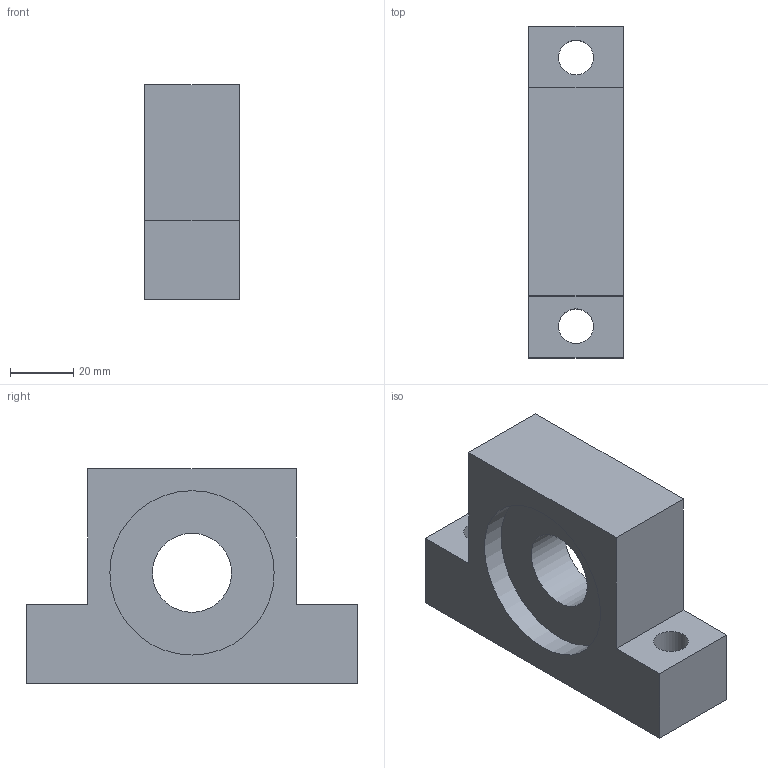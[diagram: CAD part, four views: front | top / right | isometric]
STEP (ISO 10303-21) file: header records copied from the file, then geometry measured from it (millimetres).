
FILE_DESCRIPTION((''),'2;1');
FILE_NAME('D:\製品 (図面)\カタログ用3D\ネジ関連\STEP形式\FH\FH25.stp','2010-06-01T16:44:39',('Tsuchiya'),(''),'Autodesk Inventor 10','Autodesk Inventor 10','');
FILE_SCHEMA(('AUTOMOTIVE_DESIGN { 1 0 10303 214 1 1 1 1 }'));
Length unit declared in the file: millimetre
Products named in the file (1): FH25
Bounding box: 30 x 105 x 68 mm (x, y, z)
Volume: 119920.3 mm3; surface area: 25300.1 mm2
Topology: 1 solids, 1 shells, 17 faces, 41 edges, 28 vertices
Faces by surface type: plane 12, cylinder 3, bspline 2
Full cylindrical faces by diameter (mm): 25 x1, 52 x2
Entity records: 519 total; most frequent: CARTESIAN_POINT 112, DIRECTION 76, ORIENTED_EDGE 68, EDGE_CURVE 34, EDGE_LOOP 30, AXIS2_PLACEMENT_3D 26, VERTEX_POINT 26, VECTOR 24
